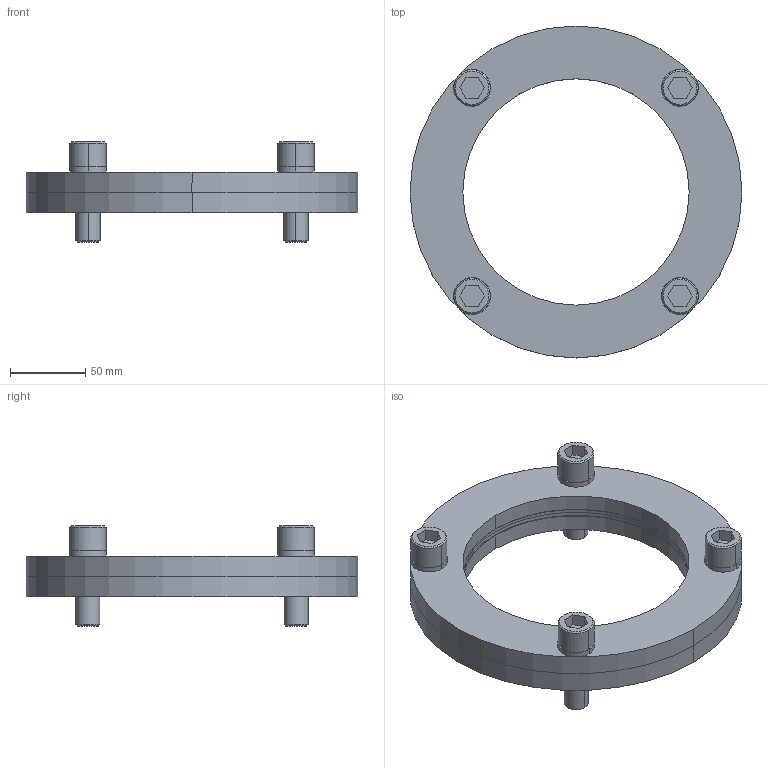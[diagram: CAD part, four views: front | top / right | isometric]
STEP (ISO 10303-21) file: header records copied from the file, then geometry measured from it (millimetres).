
FILE_DESCRIPTION(/* description */ (''),/* implementation_level */ '2;1');
FILE_NAME(/* name */ '3d_kf150_04238_r00.stp',/* time_stamp */ '2011-01-10T14:14:23+09:00',/* author */ ('MISUMI'),/* organization */ (''),/* preprocessor_version */ 'ST-DEVELOPER v11',/* originating_system */ 'UGS - NX 5.0',/* authorisation */ '');
FILE_SCHEMA (('CONFIG_CONTROL_DESIGN'));
Length unit declared in the file: millimetre
Products named in the file (1): 3d_kf150_04238_r00
Bounding box: 220 x 220 x 66.5 mm (x, y, z)
Volume: 588665.8 mm3; surface area: 138607.7 mm2
Topology: 10 solids, 10 shells, 130 faces, 284 edges, 184 vertices
Faces by surface type: cylinder 60, plane 54, cone 16
Entity records: 3720 total; most frequent: DIRECTION 682, CARTESIAN_POINT 599, ORIENTED_EDGE 568, EDGE_CURVE 284, AXIS2_PLACEMENT_3D 267, VERTEX_POINT 184, EDGE_LOOP 168, LINE 148
